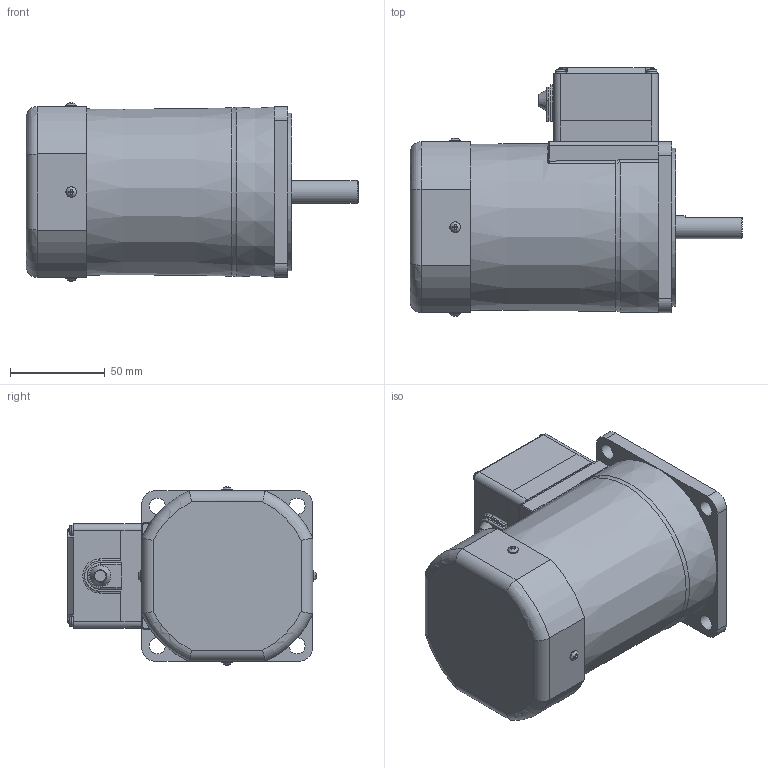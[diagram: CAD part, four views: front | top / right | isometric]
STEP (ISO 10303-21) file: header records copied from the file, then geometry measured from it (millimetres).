
FILE_DESCRIPTION(/* description */ (''),/* implementation_level */ '2;1');
FILE_NAME(/* name */ 'E:\도면작업\2016\0704) 미주향 SG 도면\3D MOTOR\TERMINAL BOX TYPE\INDUCTION TERMINAL BOX\SG9I90D_-T1.stp',/* time_stamp */ '2017-01-23T19:26:09+09:00',/* author */ ('jy-jung'),/* organization */ (''),/* preprocessor_version */ 'ST-DEVELOPER v15.6',/* originating_system */ 'Autodesk Inventor 2015',/* authorisation */ '');
FILE_SCHEMA (('AUTOMOTIVE_DESIGN { 1 0 10303 214 3 1 1 }'));
Length unit declared in the file: millimetre
Products named in the file (1): 부품2
Bounding box: 174.8 x 130.95 x 93.89 mm (x, y, z)
Volume: 1014749.5 mm3; surface area: 71333.5 mm2
Topology: 1 solids, 6 shells, 354 faces, 921 edges, 592 vertices
Faces by surface type: plane 173, cylinder 66, cone 48, torus 39, bspline 24, sphere 4
Full cylindrical faces by diameter (mm): 3 x4, 3.5 x4, 5.6 x4, 8 x1, 8.5 x4, 12 x1, 40 x1, 83 x1
Entity records: 11934 total; most frequent: CARTESIAN_POINT 3440, ORIENTED_EDGE 1724, DIRECTION 1629, EDGE_CURVE 862, AXIS2_PLACEMENT_3D 622, VERTEX_POINT 581, EDGE_LOOP 431, LINE 385
